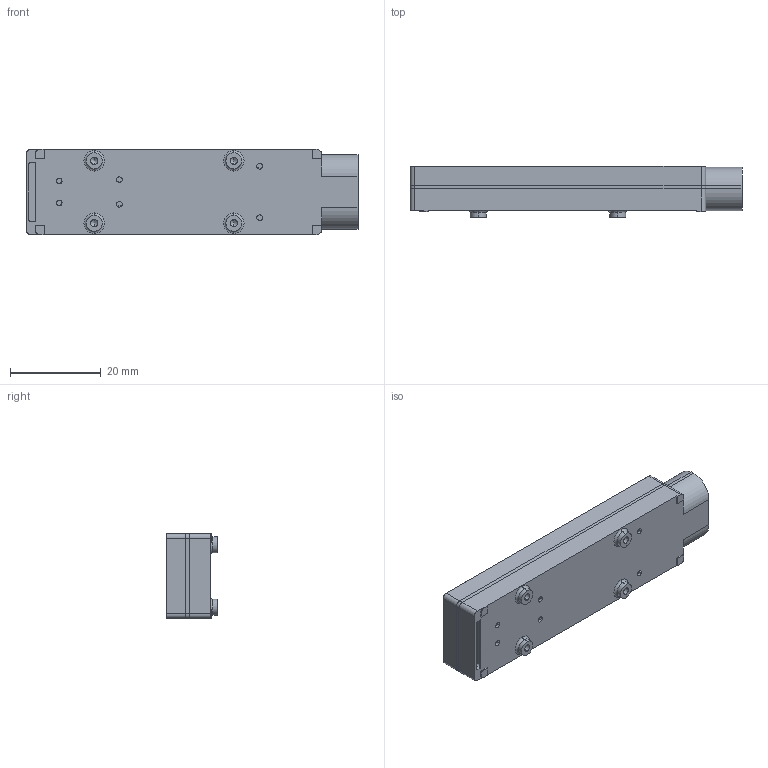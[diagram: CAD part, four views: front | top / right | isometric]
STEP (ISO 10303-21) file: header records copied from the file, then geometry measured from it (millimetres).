
FILE_DESCRIPTION(/* description */ (''),/* implementation_level */ '2;1');
FILE_NAME(/* name */ '新装配体_stp.stp',/* time_stamp */ '2026-07-21T15:26:44+08:00',/* author */ (''),/* organization */ (''),/* preprocessor_version */ 'ST-DEVELOPER v20.1',/* originating_system */ 'SIEMENS PLM Software NX2512.1700',/* authorisation */ '');
FILE_SCHEMA (('AUTOMOTIVE_DESIGN { 1 0 10303 214 3 1 1 1 }'));
Length unit declared in the file: millimetre
Products named in the file (3): 下壳体; 上壳体; 新装配体_stp
Assembly tree (2 placements, depth 2):
  新装配体_stp
    上壳体
    下壳体
Bounding box: 73 x 11.2 x 18.7 mm (x, y, z)
Volume: 12564.9 mm3; surface area: 8234.9 mm2
Topology: 2 solids, 2 shells, 301 faces, 820 edges, 535 vertices
Faces by surface type: cylinder 154, plane 109, cone 26, torus 8, extrusion 4
Full cylindrical faces by diameter (mm): 1.25 x18
Entity records: 9781 total; most frequent: CARTESIAN_POINT 1774, DIRECTION 1720, ORIENTED_EDGE 1632, EDGE_CURVE 816, AXIS2_PLACEMENT_3D 624, VERTEX_POINT 553, VECTOR 472, LINE 468
